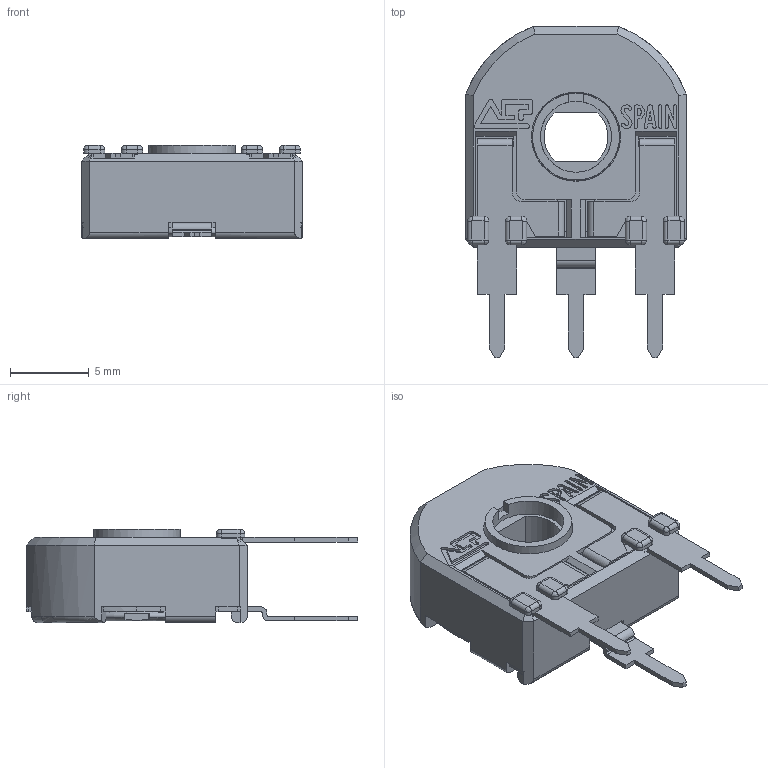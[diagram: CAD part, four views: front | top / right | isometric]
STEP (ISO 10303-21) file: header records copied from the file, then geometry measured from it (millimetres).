
FILE_DESCRIPTION(/* description */ (''),/* implementation_level */ '2;1');
FILE_NAME(/* name */ 'C:\Users\CEM\Desktop\ENVIAR\TRANSICION 3D CATALOGOS\CAR14NH5.stp',/* time_stamp */ '2025-09-22T10:02:01+02:00',/* author */ ('CEM'),/* organization */ (''),/* preprocessor_version */ 'ST-DEVELOPER v17',/* originating_system */ 'Autodesk Inventor 2018',/* authorisation */ '');
FILE_SCHEMA (('AUTOMOTIVE_DESIGN { 1 0 10303 214 3 1 1 }'));
Length unit declared in the file: millimetre
Products named in the file (1): CAR14NH5
Bounding box: 14 x 21 x 5.9 mm (x, y, z)
Volume: 544.4 mm3; surface area: 1519.3 mm2
Topology: 1 solids, 1 shells, 577 faces, 1682 edges, 1077 vertices
Faces by surface type: plane 394, cylinder 140, bspline 20, cone 14, torus 9
Full cylindrical faces by diameter (mm): 1.2 x2, 4.5 x1, 5.5 x1, 5.65 x1, 6.88 x1
Entity records: 19729 total; most frequent: CARTESIAN_POINT 3661, ORIENTED_EDGE 3364, DIRECTION 3161, EDGE_CURVE 1682, LINE 1243, VECTOR 1243, VERTEX_POINT 1077, AXIS2_PLACEMENT_3D 959
